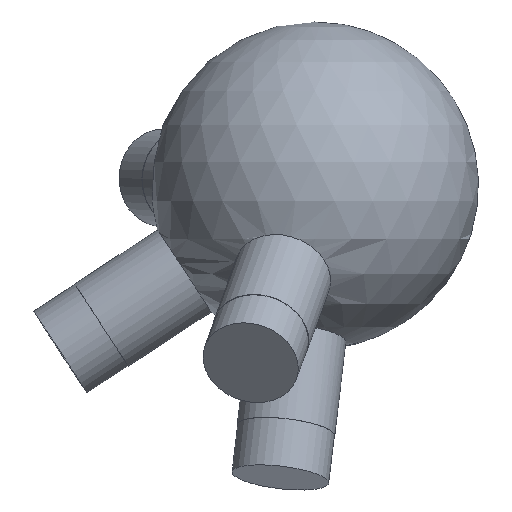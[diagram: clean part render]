
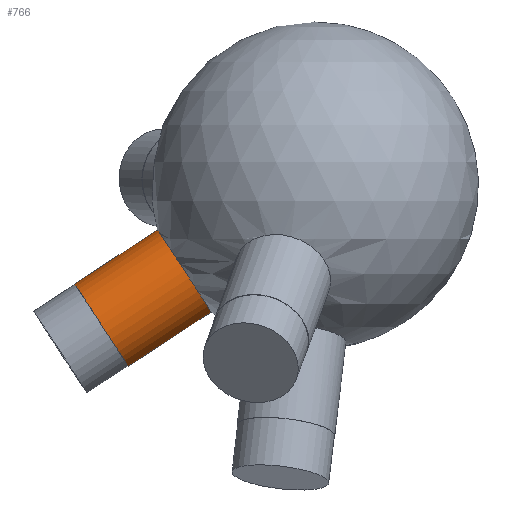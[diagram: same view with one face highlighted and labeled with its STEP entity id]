
A CAD part, front view. The second image highlights one B-rep face of the part: STEP entity #766.
In plain terms, the highlighted cylindrical face has radius 6 mm (diameter 12 mm), a full revolution.
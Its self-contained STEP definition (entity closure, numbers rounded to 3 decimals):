
#33 = SPHERICAL_SURFACE('',#34,20.);
#34 = AXIS2_PLACEMENT_3D('',#35,#36,#37);
#35 = CARTESIAN_POINT('',(0.,0.,0.));
#36 = DIRECTION('',(0.,0.,1.));
#37 = DIRECTION('',(1.,0.,-0.));
#330 = EDGE_CURVE('',#331,#331,#333,.T.);
#331 = VERTEX_POINT('',#332);
#332 = CARTESIAN_POINT('',(-12.688,-0.108,
    -15.459));
#333 = SURFACE_CURVE('',#334,(#339,#408),.PCURVE_S1.);
#334 = CIRCLE('',#335,6.);
#335 = AXIS2_PLACEMENT_3D('',#336,#337,#338);
#336 = CARTESIAN_POINT('',(-15.971,-0.108,
    -10.437));
#337 = DIRECTION('',(-0.837,-0.006,-0.547
    ));
#338 = DIRECTION('',(0.547,0.,-0.837)
  );
#339 = PCURVE('',#33,#340);
#340 = DEFINITIONAL_REPRESENTATION('',(#341),#407);
#341 = B_SPLINE_CURVE_WITH_KNOTS('',8,(#342,#343,#344,#345,#346,#347,
    #348,#349,#350,#351,#352,#353,#354,#355,#356,#357,#358,#359,#360,
    #361,#362,#363,#364,#365,#366,#367,#368,#369,#370,#371,#372,#373,
    #374,#375,#376,#377,#378,#379,#380,#381,#382,#383,#384,#385,#386,
    #387,#388,#389,#390,#391,#392,#393,#394,#395,#396,#397,#398,#399,
    #400,#401,#402,#403,#404,#405,#406),.UNSPECIFIED.,.T.,.F.,(9,7,7,7,7
    ,7,7,7,7,9),(0.,0.393,1.129,1.773,
    2.901,3.746,4.381,5.332,
    5.808,6.283),.UNSPECIFIED.);
#342 = CARTESIAN_POINT('',(3.15,-0.884));
#343 = CARTESIAN_POINT('',(3.173,-0.883));
#344 = CARTESIAN_POINT('',(3.196,-0.882));
#345 = CARTESIAN_POINT('',(3.219,-0.88));
#346 = CARTESIAN_POINT('',(3.242,-0.877));
#347 = CARTESIAN_POINT('',(3.264,-0.872));
#348 = CARTESIAN_POINT('',(3.285,-0.867));
#349 = CARTESIAN_POINT('',(3.306,-0.861));
#350 = CARTESIAN_POINT('',(3.362,-0.84));
#351 = CARTESIAN_POINT('',(3.395,-0.823));
#352 = CARTESIAN_POINT('',(3.424,-0.804));
#353 = CARTESIAN_POINT('',(3.449,-0.782));
#354 = CARTESIAN_POINT('',(3.469,-0.758));
#355 = CARTESIAN_POINT('',(3.485,-0.733));
#356 = CARTESIAN_POINT('',(3.497,-0.706));
#357 = CARTESIAN_POINT('',(3.512,-0.656));
#358 = CARTESIAN_POINT('',(3.516,-0.632));
#359 = CARTESIAN_POINT('',(3.517,-0.608));
#360 = CARTESIAN_POINT('',(3.516,-0.583));
#361 = CARTESIAN_POINT('',(3.512,-0.559));
#362 = CARTESIAN_POINT('',(3.506,-0.535));
#363 = CARTESIAN_POINT('',(3.498,-0.512));
#364 = CARTESIAN_POINT('',(3.47,-0.451));
#365 = CARTESIAN_POINT('',(3.446,-0.414));
#366 = CARTESIAN_POINT('',(3.417,-0.38));
#367 = CARTESIAN_POINT('',(3.384,-0.35));
#368 = CARTESIAN_POINT('',(3.347,-0.325));
#369 = CARTESIAN_POINT('',(3.307,-0.305));
#370 = CARTESIAN_POINT('',(3.265,-0.29));
#371 = CARTESIAN_POINT('',(3.189,-0.275));
#372 = CARTESIAN_POINT('',(3.157,-0.272));
#373 = CARTESIAN_POINT('',(3.123,-0.272));
#374 = CARTESIAN_POINT('',(3.09,-0.275));
#375 = CARTESIAN_POINT('',(3.058,-0.282));
#376 = CARTESIAN_POINT('',(3.026,-0.292));
#377 = CARTESIAN_POINT('',(2.995,-0.305));
#378 = CARTESIAN_POINT('',(2.945,-0.333));
#379 = CARTESIAN_POINT('',(2.924,-0.347));
#380 = CARTESIAN_POINT('',(2.905,-0.362));
#381 = CARTESIAN_POINT('',(2.886,-0.379));
#382 = CARTESIAN_POINT('',(2.869,-0.396));
#383 = CARTESIAN_POINT('',(2.853,-0.416));
#384 = CARTESIAN_POINT('',(2.839,-0.436));
#385 = CARTESIAN_POINT('',(2.808,-0.488));
#386 = CARTESIAN_POINT('',(2.793,-0.522));
#387 = CARTESIAN_POINT('',(2.783,-0.557));
#388 = CARTESIAN_POINT('',(2.777,-0.593));
#389 = CARTESIAN_POINT('',(2.777,-0.629));
#390 = CARTESIAN_POINT('',(2.783,-0.665));
#391 = CARTESIAN_POINT('',(2.795,-0.699));
#392 = CARTESIAN_POINT('',(2.824,-0.748));
#393 = CARTESIAN_POINT('',(2.836,-0.764));
#394 = CARTESIAN_POINT('',(2.849,-0.779));
#395 = CARTESIAN_POINT('',(2.864,-0.794));
#396 = CARTESIAN_POINT('',(2.881,-0.807));
#397 = CARTESIAN_POINT('',(2.9,-0.82));
#398 = CARTESIAN_POINT('',(2.92,-0.831));
#399 = CARTESIAN_POINT('',(2.964,-0.851));
#400 = CARTESIAN_POINT('',(2.988,-0.86));
#401 = CARTESIAN_POINT('',(3.013,-0.868));
#402 = CARTESIAN_POINT('',(3.039,-0.874));
#403 = CARTESIAN_POINT('',(3.066,-0.879));
#404 = CARTESIAN_POINT('',(3.094,-0.882));
#405 = CARTESIAN_POINT('',(3.122,-0.884));
#406 = CARTESIAN_POINT('',(3.15,-0.884));
#407 = ( GEOMETRIC_REPRESENTATION_CONTEXT(2) 
PARAMETRIC_REPRESENTATION_CONTEXT() REPRESENTATION_CONTEXT('2D SPACE',''
  ) );
#408 = PCURVE('',#409,#414);
#409 = CYLINDRICAL_SURFACE('',#410,6.);
#410 = AXIS2_PLACEMENT_3D('',#411,#412,#413);
#411 = CARTESIAN_POINT('',(0.,0.,0.));
#412 = DIRECTION('',(-0.837,-0.006,-0.547
    ));
#413 = DIRECTION('',(0.547,0.,-0.837)
  );
#414 = DEFINITIONAL_REPRESENTATION('',(#415),#419);
#415 = LINE('',#416,#417);
#416 = CARTESIAN_POINT('',(0.,19.079));
#417 = VECTOR('',#418,1.);
#418 = DIRECTION('',(1.,0.));
#419 = ( GEOMETRIC_REPRESENTATION_CONTEXT(2) 
PARAMETRIC_REPRESENTATION_CONTEXT() REPRESENTATION_CONTEXT('2D SPACE',''
  ) );
#766 = ADVANCED_FACE('',(#767),#409,.T.);
#767 = FACE_BOUND('',#768,.T.);
#768 = EDGE_LOOP('',(#769,#792,#819,#820));
#769 = ORIENTED_EDGE('',*,*,#770,.T.);
#770 = EDGE_CURVE('',#331,#771,#773,.T.);
#771 = VERTEX_POINT('',#772);
#772 = CARTESIAN_POINT('',(-22.835,-0.176,
    -22.09));
#773 = SEAM_CURVE('',#774,(#778,#785),.PCURVE_S1.);
#774 = LINE('',#775,#776);
#775 = CARTESIAN_POINT('',(3.282,0.,
    -5.023));
#776 = VECTOR('',#777,1.);
#777 = DIRECTION('',(-0.837,-0.006,-0.547
    ));
#778 = PCURVE('',#409,#779);
#779 = DEFINITIONAL_REPRESENTATION('',(#780),#784);
#780 = LINE('',#781,#782);
#781 = CARTESIAN_POINT('',(6.283,-0.));
#782 = VECTOR('',#783,1.);
#783 = DIRECTION('',(0.,1.));
#784 = ( GEOMETRIC_REPRESENTATION_CONTEXT(2) 
PARAMETRIC_REPRESENTATION_CONTEXT() REPRESENTATION_CONTEXT('2D SPACE',''
  ) );
#785 = PCURVE('',#409,#786);
#786 = DEFINITIONAL_REPRESENTATION('',(#787),#791);
#787 = LINE('',#788,#789);
#788 = CARTESIAN_POINT('',(0.,-0.));
#789 = VECTOR('',#790,1.);
#790 = DIRECTION('',(0.,1.));
#791 = ( GEOMETRIC_REPRESENTATION_CONTEXT(2) 
PARAMETRIC_REPRESENTATION_CONTEXT() REPRESENTATION_CONTEXT('2D SPACE',''
  ) );
#792 = ORIENTED_EDGE('',*,*,#793,.F.);
#793 = EDGE_CURVE('',#771,#771,#794,.T.);
#794 = SURFACE_CURVE('',#795,(#800,#807),.PCURVE_S1.);
#795 = CIRCLE('',#796,6.);
#796 = AXIS2_PLACEMENT_3D('',#797,#798,#799);
#797 = CARTESIAN_POINT('',(-26.117,-0.176,
    -17.067));
#798 = DIRECTION('',(-0.837,-0.006,-0.547
    ));
#799 = DIRECTION('',(0.547,0.,-0.837)
  );
#800 = PCURVE('',#409,#801);
#801 = DEFINITIONAL_REPRESENTATION('',(#802),#806);
#802 = LINE('',#803,#804);
#803 = CARTESIAN_POINT('',(0.,31.2));
#804 = VECTOR('',#805,1.);
#805 = DIRECTION('',(1.,0.));
#806 = ( GEOMETRIC_REPRESENTATION_CONTEXT(2) 
PARAMETRIC_REPRESENTATION_CONTEXT() REPRESENTATION_CONTEXT('2D SPACE',''
  ) );
#807 = PCURVE('',#808,#813);
#808 = PLANE('',#809);
#809 = AXIS2_PLACEMENT_3D('',#810,#811,#812);
#810 = CARTESIAN_POINT('',(-26.117,-0.176,
    -17.067));
#811 = DIRECTION('',(-0.837,-0.006,-0.547
    ));
#812 = DIRECTION('',(0.547,0.,-0.837)
  );
#813 = DEFINITIONAL_REPRESENTATION('',(#814),#818);
#814 = CIRCLE('',#815,6.);
#815 = AXIS2_PLACEMENT_2D('',#816,#817);
#816 = CARTESIAN_POINT('',(0.,0.));
#817 = DIRECTION('',(1.,0.));
#818 = ( GEOMETRIC_REPRESENTATION_CONTEXT(2) 
PARAMETRIC_REPRESENTATION_CONTEXT() REPRESENTATION_CONTEXT('2D SPACE',''
  ) );
#819 = ORIENTED_EDGE('',*,*,#770,.F.);
#820 = ORIENTED_EDGE('',*,*,#330,.T.);
